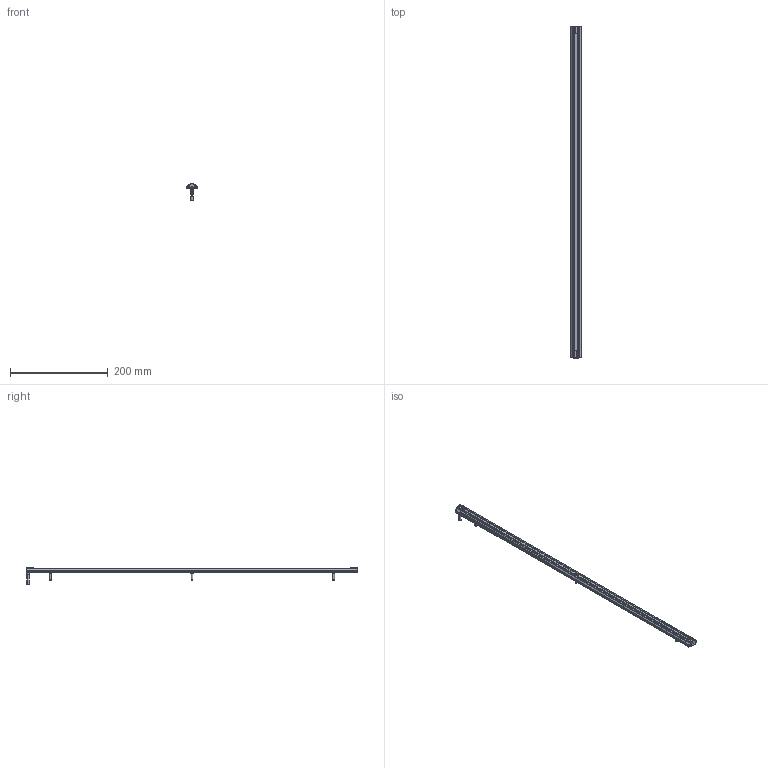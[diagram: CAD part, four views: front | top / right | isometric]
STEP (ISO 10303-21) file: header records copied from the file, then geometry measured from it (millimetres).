
FILE_DESCRIPTION (( 'STEP AP214' ), '1' );
FILE_NAME ('ILGA-B-K1a-0680mm.STEP', '2026-04-24T22:52:19', ( '' ), ( '' ), 'SwSTEP 2.0', 'SolidWorks 2025', '' );
FILE_SCHEMA (( 'AUTOMOTIVE_DESIGN' ));
Length unit declared in the file: millimetre
Products named in the file (1): ILGA-B-K1a-0680mm
Bounding box: 22.4 x 680 x 34.2 mm (x, y, z)
Volume: 53441.1 mm3; surface area: 93760.3 mm2
Topology: 12 solids, 12 shells, 719 faces, 1850 edges, 1132 vertices
Faces by surface type: plane 311, cylinder 266, cone 58, torus 44, bspline 24, sphere 16
Entity records: 30059 total; most frequent: CARTESIAN_POINT 4602, DIRECTION 3802, ORIENTED_EDGE 3612, EDGE_CURVE 1806, AXIS2_PLACEMENT_3D 1420, VERTEX_POINT 1132, VECTOR 962, LINE 962
